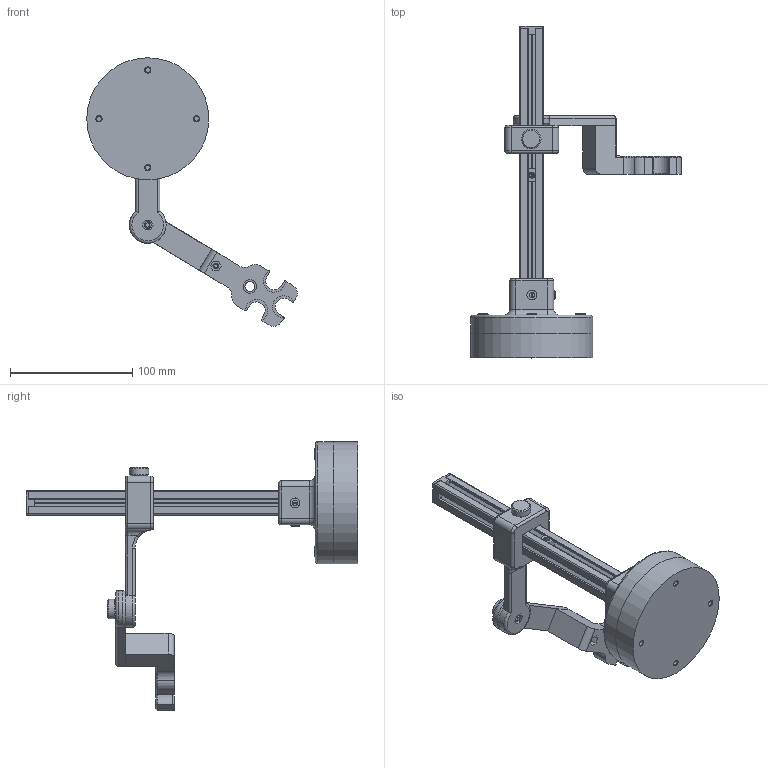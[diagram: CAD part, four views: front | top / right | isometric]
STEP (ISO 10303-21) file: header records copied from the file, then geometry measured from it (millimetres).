
FILE_DESCRIPTION(/* description */ (''),/* implementation_level */ '2;1');
FILE_NAME(/* name */ 'Assieme_chimica_04.stp',/* time_stamp */ '2025-09-23T11:39:27+02:00',/* author */ ('Ryzen5700u'),/* organization */ (''),/* preprocessor_version */ 'ST-DEVELOPER v20',/* originating_system */ 'Autodesk Inventor 2025',/* authorisation */ '');
FILE_SCHEMA (('AUTOMOTIVE_DESIGN { 1 0 10303 214 3 1 1 }'));
Length unit declared in the file: millimetre
Products named in the file (14): Assieme_chimica_02; tslot-20x20-3_MIR1; base_petg2; base_ferro; braccio; tappo_2020; porta_sensore; AS 1420 - 1973 - M5 x 20; AS 1112 - M4  Tipo 5; AS 1420 - 1973 - M4 x 30; Slider T-Nut for 2020 - M4; AS 1420 - 1973 - M4 x 8; braccio2; vite_blocco
Assembly tree (19 placements, depth 2):
  Assieme_chimica_02
    tslot-20x20-3_MIR1
    base_petg2
    base_ferro
    braccio
    tappo_2020
    vite_blocco  x2
    porta_sensore
    AS 1420 - 1973 - M5 x 20  x4
    AS 1112 - M4  Tipo 5  x2
    AS 1420 - 1973 - M4 x 8  x2
    AS 1420 - 1973 - M4 x 30
    Slider T-Nut for 2020 - M4
    braccio2
Bounding box: 172.48 x 272 x 219.97 mm (x, y, z)
Volume: 442950.7 mm3; surface area: 131964.8 mm2
Topology: 19 solids, 19 shells, 771 faces, 1984 edges, 1293 vertices
Faces by surface type: plane 442, cylinder 148, bspline 78, cone 63, torus 40
Full cylindrical faces by diameter (mm): 3.242 x2, 3.332 x1, 4 x3, 4.134 x4, 4.2 x1, 4.5 x9, 5 x4, 5.5 x6, 7 x3, 8 x6, 8.5 x4, 9 x4, 11 x1, 16 x2, 100 x2
Entity records: 22010 total; most frequent: CARTESIAN_POINT 4960, ORIENTED_EDGE 3544, DIRECTION 3190, EDGE_CURVE 1772, LINE 1182, VECTOR 1182, VERTEX_POINT 1158, AXIS2_PLACEMENT_3D 1004
